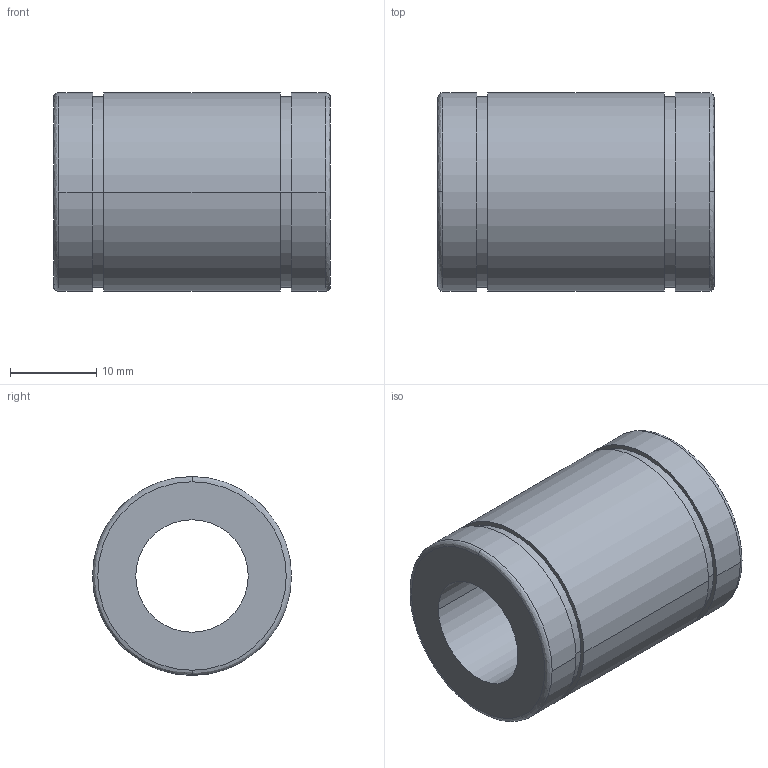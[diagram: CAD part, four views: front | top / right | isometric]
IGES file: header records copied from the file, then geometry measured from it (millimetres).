
Start section: 3D InterOp IGES (Version 21 0 1), Spatial Corp. Copyright (c) 1999-2007.
Global section: file name: N-13UU.igs; native system: Spatial Corp.; preprocessor: 3D InterOp GENERIC/IGES 3.0; author: Noname; organization: Noname; date: 20220311.145100; units: millimetre
Bounding box: 32 x 23 x 23 mm (x, y, z)
Surface area: 4280.3 mm2 (no closed solid volume)
Topology: 0 solids, 0 shells, 22 faces, 100 edges, 100 vertices
Faces by surface type: revolution 16, extrusion 6
